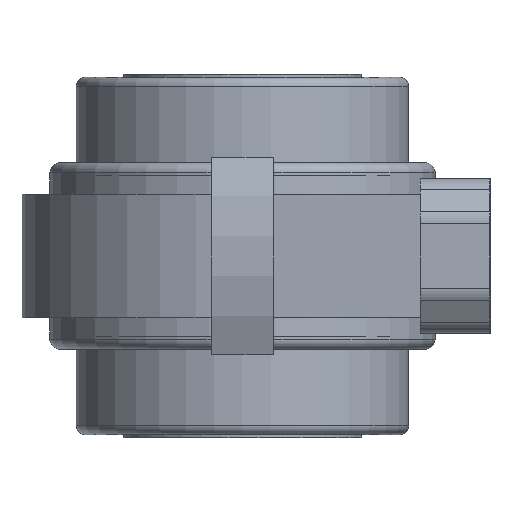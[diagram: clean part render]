
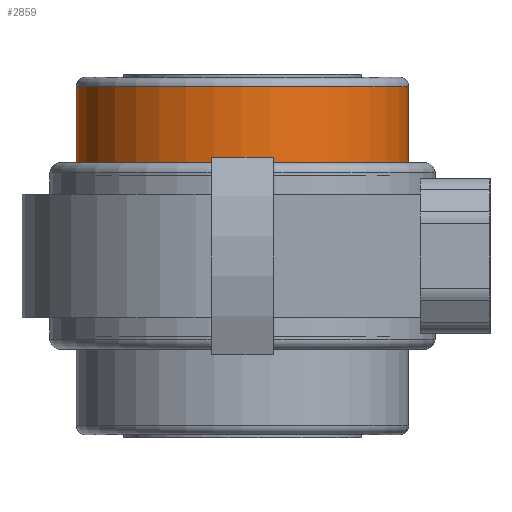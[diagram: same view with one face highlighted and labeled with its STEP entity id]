
A CAD part, left-side view. The second image highlights one B-rep face of the part: STEP entity #2859.
In plain terms, the highlighted cylindrical face has radius 21.5 mm (diameter 43 mm), a full revolution.
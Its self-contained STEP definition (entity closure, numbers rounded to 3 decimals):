
#2825=CARTESIAN_POINT('',(0.0,21.5,15.9));
#2826=VERTEX_POINT('',#2825);
#2827=CARTESIAN_POINT('',(0.0,0.,15.9));
#2828=DIRECTION('',(0.0,0.0,-1.0));
#2829=DIRECTION('',(0.0,1.0,0.0));
#2830=AXIS2_PLACEMENT_3D('',#2827,#2828,#2829);
#2831=CIRCLE('',#2830,21.5);
#2832=EDGE_CURVE('',#2826,#2826,#2831,.T.);
#2840=CARTESIAN_POINT('',(0.0,0.,10.975));
#2841=DIRECTION('',(0.0,0.,-1.0));
#2842=DIRECTION('',(0.0,1.0,0.0));
#2843=AXIS2_PLACEMENT_3D('',#2840,#2841,#2842);
#2844=CYLINDRICAL_SURFACE('',#2843,21.5);
#2845=CARTESIAN_POINT('',(0.0,21.5,6.05));
#2846=VERTEX_POINT('',#2845);
#2847=CARTESIAN_POINT('',(0.0,0.,6.05));
#2848=DIRECTION('',(0.0,0.0,-1.0));
#2849=DIRECTION('',(0.0,1.0,0.0));
#2850=AXIS2_PLACEMENT_3D('',#2847,#2848,#2849);
#2851=CIRCLE('',#2850,21.5);
#2852=EDGE_CURVE('',#2846,#2846,#2851,.T.);
#2853=ORIENTED_EDGE('',*,*,#2852,.F.);
#2854=EDGE_LOOP('',(#2853));
#2855=FACE_OUTER_BOUND('',#2854,.T.);
#2856=ORIENTED_EDGE('',*,*,#2832,.T.);
#2857=EDGE_LOOP('',(#2856));
#2858=FACE_BOUND('',#2857,.T.);
#2859=ADVANCED_FACE('',(#2855,#2858),#2844,.T.);
